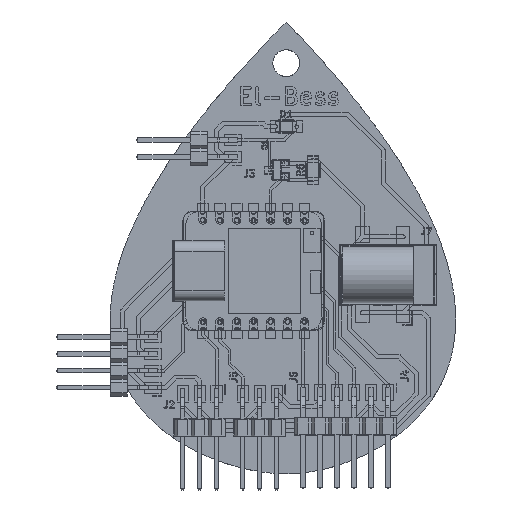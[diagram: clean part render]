
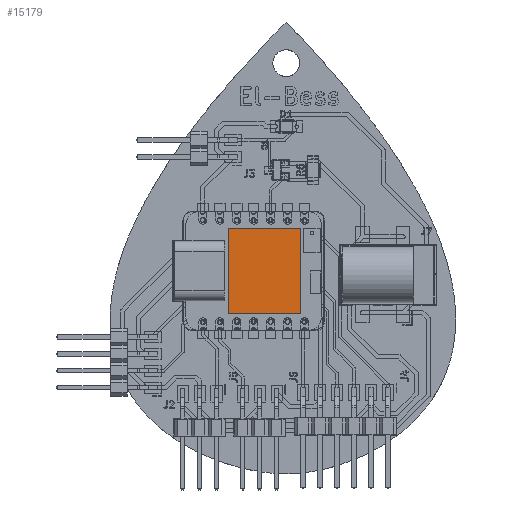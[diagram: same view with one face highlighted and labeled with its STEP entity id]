
A CAD part, top view. The second image highlights one B-rep face of the part: STEP entity #15179.
In plain terms, the highlighted planar face has unit normal (0, 0, 1).
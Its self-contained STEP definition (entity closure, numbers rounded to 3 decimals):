
#15050 = VERTEX_POINT('',#15051);
#15051 = CARTESIAN_POINT('',(-6.425,7.01,3.));
#15057 = EDGE_CURVE('',#15050,#15058,#15060,.T.);
#15058 = VERTEX_POINT('',#15059);
#15059 = CARTESIAN_POINT('',(-6.425,-3.84,3.));
#15060 = LINE('',#15061,#15062);
#15061 = CARTESIAN_POINT('',(-6.425,7.01,3.));
#15062 = VECTOR('',#15063,1.);
#15063 = DIRECTION('',(0.,-1.,0.));
#15088 = EDGE_CURVE('',#15058,#15089,#15091,.T.);
#15089 = VERTEX_POINT('',#15090);
#15090 = CARTESIAN_POINT('',(6.425,-3.84,3.));
#15091 = LINE('',#15092,#15093);
#15092 = CARTESIAN_POINT('',(-6.425,-3.84,3.));
#15093 = VECTOR('',#15094,1.);
#15094 = DIRECTION('',(1.,0.,0.));
#15119 = EDGE_CURVE('',#15089,#15120,#15122,.T.);
#15120 = VERTEX_POINT('',#15121);
#15121 = CARTESIAN_POINT('',(6.425,7.01,3.));
#15122 = LINE('',#15123,#15124);
#15123 = CARTESIAN_POINT('',(6.425,-3.84,3.));
#15124 = VECTOR('',#15125,1.);
#15125 = DIRECTION('',(0.,1.,0.));
#15150 = EDGE_CURVE('',#15120,#15050,#15151,.T.);
#15151 = LINE('',#15152,#15153);
#15152 = CARTESIAN_POINT('',(6.425,7.01,3.));
#15153 = VECTOR('',#15154,1.);
#15154 = DIRECTION('',(-1.,0.,0.));
#15179 = ADVANCED_FACE('',(#15180),#15186,.T.);
#15180 = FACE_BOUND('',#15181,.T.);
#15181 = EDGE_LOOP('',(#15182,#15183,#15184,#15185));
#15182 = ORIENTED_EDGE('',*,*,#15057,.T.);
#15183 = ORIENTED_EDGE('',*,*,#15088,.T.);
#15184 = ORIENTED_EDGE('',*,*,#15119,.T.);
#15185 = ORIENTED_EDGE('',*,*,#15150,.T.);
#15186 = PLANE('',#15187);
#15187 = AXIS2_PLACEMENT_3D('',#15188,#15189,#15190);
#15188 = CARTESIAN_POINT('',(0.,1.585,3.));
#15189 = DIRECTION('',(0.,0.,1.));
#15190 = DIRECTION('',(1.,0.,-0.));
